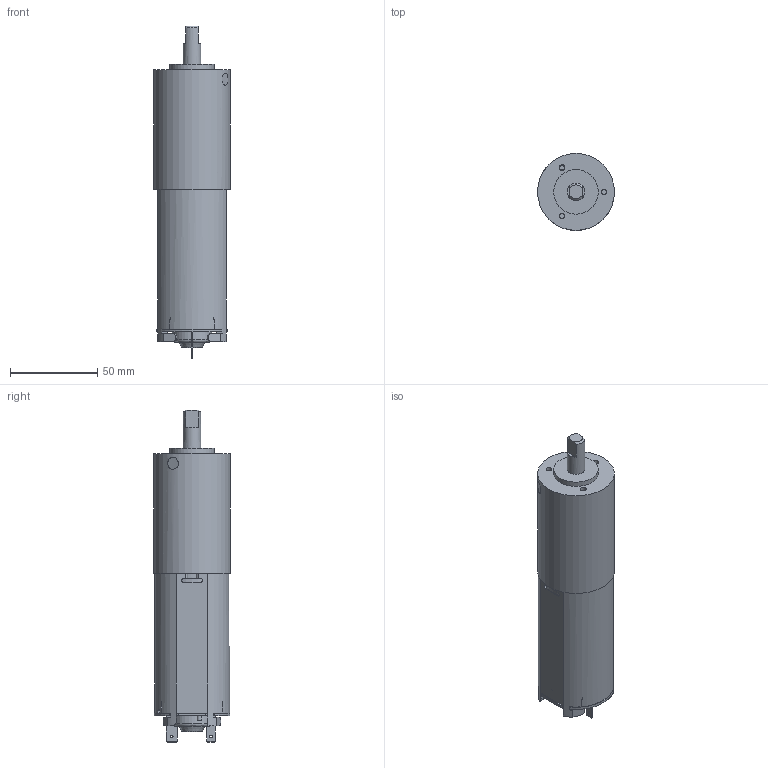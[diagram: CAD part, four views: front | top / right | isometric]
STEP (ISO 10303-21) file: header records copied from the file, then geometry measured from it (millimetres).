
FILE_DESCRIPTION (( 'STEP AP214' ), '1' );
FILE_NAME ('404465.step', '2018-06-28T08:48:36', ( '' ), ( '' ), 'SwSTEP 2.0', 'SolidWorks 2010', '' );
FILE_SCHEMA (( 'AUTOMOTIVE_DESIGN' ));
Length unit declared in the file: millimetre
Products named in the file (3): Motor-404465-KGK; Shaft-404465-KGK; 404465
Assembly tree (2 placements, depth 2):
  404465
    Shaft-404465-KGK
    Motor-404465-KGK
Bounding box: 44 x 44 x 190 mm (x, y, z)
Volume: 142654.7 mm3; surface area: 42617.1 mm2
Topology: 2 solids, 2 shells, 217 faces, 621 edges, 401 vertices
Faces by surface type: plane 142, cylinder 66, cone 6, bspline 2, torus 1
Full cylindrical faces by diameter (mm): 1.3 x6, 1.5 x2, 2.3 x4, 3.3 x3, 7 x2, 10 x1, 25.5 x1, 34.7 x1, 35 x1, 38 x1, 38.5 x1, 44 x1
Entity records: 7364 total; most frequent: CARTESIAN_POINT 1667, DIRECTION 1167, ORIENTED_EDGE 1160, EDGE_CURVE 580, AXIS2_PLACEMENT_3D 421, VERTEX_POINT 389, VECTOR 325, LINE 325
